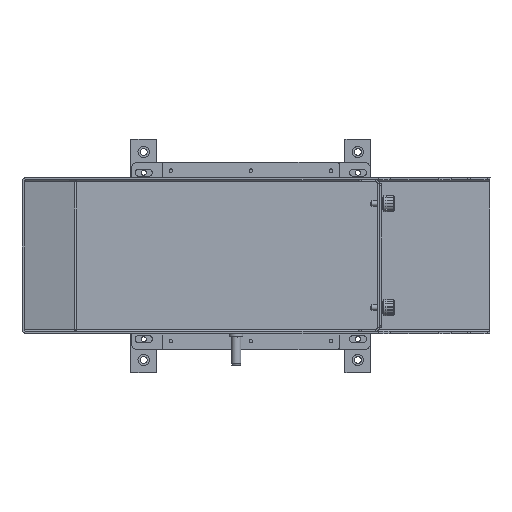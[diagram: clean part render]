
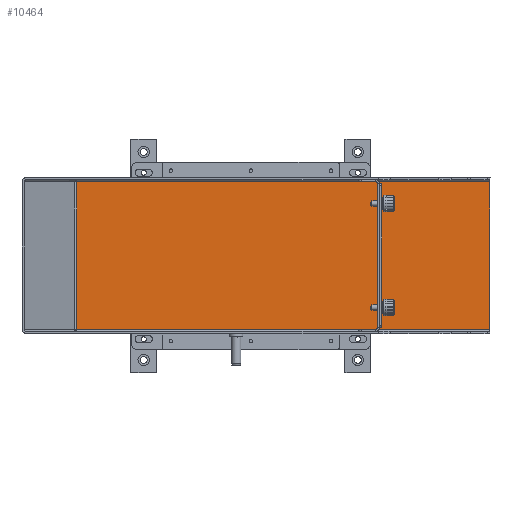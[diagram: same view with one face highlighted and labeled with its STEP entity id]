
A CAD part, top view. The second image highlights one B-rep face of the part: STEP entity #10464.
In plain terms, the highlighted planar face has unit normal (0, 0, 1) as drawn and (1, 0, 0) by its records, which use the part's own axes.
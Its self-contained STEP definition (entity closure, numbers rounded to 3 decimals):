
#506=PLANE('',#11607);
#934=FACE_OUTER_BOUND('',#1611,.T.);
#1611=EDGE_LOOP('',(#8229,#8230,#8231,#8232));
#2479=LINE('',#16953,#3413);
#2480=LINE('',#16956,#3414);
#2487=LINE('',#16981,#3421);
#2488=LINE('',#16983,#3422);
#3413=VECTOR('',#13670,10.);
#3414=VECTOR('',#13673,10.);
#3421=VECTOR('',#13696,10.);
#3422=VECTOR('',#13699,10.);
#4894=VERTEX_POINT('',#16913);
#4908=VERTEX_POINT('',#16949);
#4909=VERTEX_POINT('',#16955);
#4919=VERTEX_POINT('',#16979);
#6086=EDGE_CURVE('',#4908,#4894,#2479,.T.);
#6087=EDGE_CURVE('',#4909,#4908,#2480,.T.);
#6100=EDGE_CURVE('',#4894,#4919,#2487,.T.);
#6101=EDGE_CURVE('',#4909,#4919,#2488,.T.);
#8229=ORIENTED_EDGE('',*,*,#6100,.T.);
#8230=ORIENTED_EDGE('',*,*,#6101,.F.);
#8231=ORIENTED_EDGE('',*,*,#6087,.T.);
#8232=ORIENTED_EDGE('',*,*,#6086,.T.);
#10464=ADVANCED_FACE('',(#934),#506,.T.);
#11607=AXIS2_PLACEMENT_3D('',#16982,#13697,#13698);
#13670=DIRECTION('',(0.,1.,0.));
#13673=DIRECTION('',(0.,0.,-1.));
#13696=DIRECTION('',(0.,0.,1.));
#13697=DIRECTION('center_axis',(1.,0.,0.));
#13698=DIRECTION('ref_axis',(0.,0.,-1.));
#13699=DIRECTION('',(0.,1.,0.));
#16913=CARTESIAN_POINT('',(2.,71.,-172.528));
#16949=CARTESIAN_POINT('',(2.,-71.,-172.528));
#16953=CARTESIAN_POINT('',(2.,-37.5,-172.528));
#16955=CARTESIAN_POINT('',(2.,-71.,225.));
#16956=CARTESIAN_POINT('',(2.,-71.,112.5));
#16979=CARTESIAN_POINT('',(2.,71.,225.));
#16981=CARTESIAN_POINT('',(2.,71.,-112.5));
#16982=CARTESIAN_POINT('Origin',(2.,0.,0.));
#16983=CARTESIAN_POINT('',(2.,37.5,225.));
